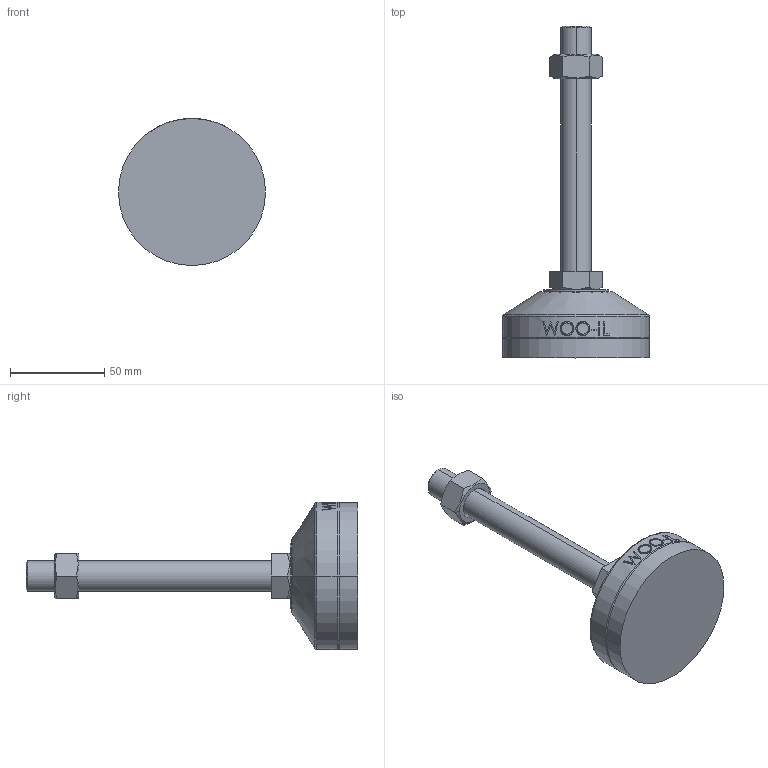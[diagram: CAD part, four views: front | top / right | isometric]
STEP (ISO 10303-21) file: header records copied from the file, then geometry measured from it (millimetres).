
FILE_DESCRIPTION (( 'STEP AP214' ), '1' );
FILE_NAME ('MFR78-M16-130.step', '2021-01-13T05:37:33', ( '' ), ( '' ), 'SwSTEP 2.0', 'SolidWorks 2019', '' );
FILE_SCHEMA (( 'AUTOMOTIVE_DESIGN' ));
Length unit declared in the file: millimetre
Products named in the file (2): MFR78-M16-130
Bounding box: 78 x 176 x 78 mm (x, y, z)
Volume: 178078.7 mm3; surface area: 35807.6 mm2
Topology: 4 solids, 4 shells, 103 faces, 235 edges, 150 vertices
Faces by surface type: plane 49, cylinder 18, bspline 16, cone 14, torus 6
Entity records: 4435 total; most frequent: CARTESIAN_POINT 2162, ORIENTED_EDGE 470, DIRECTION 417, EDGE_CURVE 235, AXIS2_PLACEMENT_3D 159, VERTEX_POINT 150, EDGE_LOOP 115, FACE_OUTER_BOUND 103
